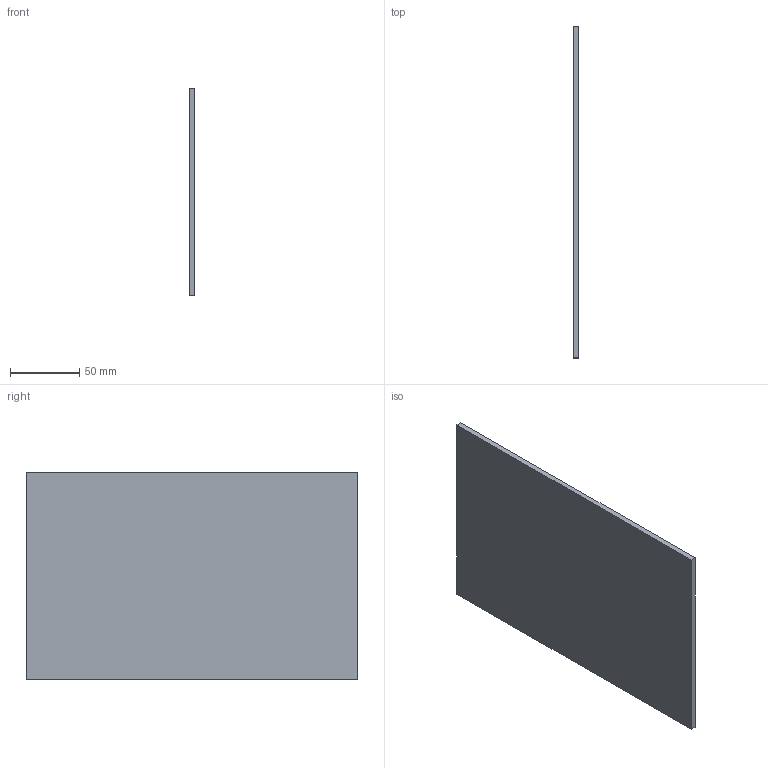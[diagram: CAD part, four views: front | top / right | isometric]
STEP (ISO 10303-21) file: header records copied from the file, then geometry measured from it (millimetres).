
FILE_DESCRIPTION(('Open CASCADE Model'),'2;1');
FILE_NAME('Open CASCADE Shape Model','2026-10-16T18:52:00',('Author'),( 'Open CASCADE'),'Open CASCADE STEP processor 7.8','Open CASCADE 7.8' ,'Unknown');
FILE_SCHEMA(('AUTOMOTIVE_DESIGN { 1 0 10303 214 1 1 1 1 }'));
Length unit declared in the file: millimetre
Products named in the file (1): Open CASCADE STEP translator 7.8 55
Bounding box: 4 x 240 x 150 mm (x, y, z)
Volume: 144000 mm3; surface area: 75120 mm2
Topology: 1 solids, 1 shells, 6 faces, 12 edges, 8 vertices
Faces by surface type: plane 6
Entity records: 322 total; most frequent: CARTESIAN_POINT 51, DIRECTION 50, LINE 36, VECTOR 36, ORIENTED_EDGE 24, PCURVE 24, DEFINITIONAL_REPRESENTATION 24, EDGE_CURVE 12
